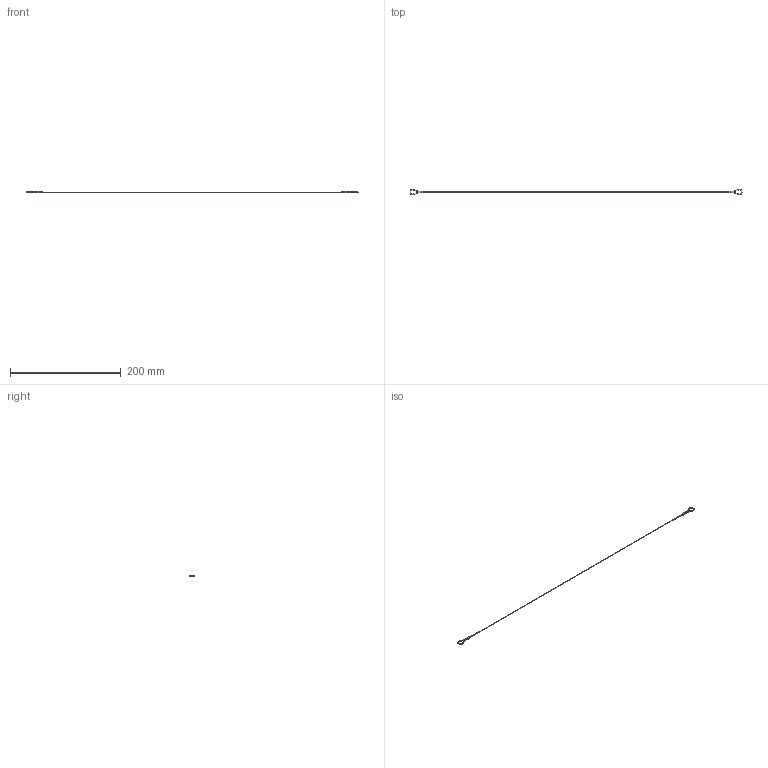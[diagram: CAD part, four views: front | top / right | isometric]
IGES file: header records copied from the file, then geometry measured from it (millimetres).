
Start section:  PTC IGES file: EB-935_12.igs
Global section: file name: EB-935_12.igs; native system: Creo Parametric by Parametric Technology Corporation; preprocessor: 2012360; author: xeon_1; organization: Unknown; date: 20130808.093905; units: millimetre
Bounding box: 600 x 10.12 x 2.5 mm (x, y, z)
Volume: 550.8 mm3; surface area: 2186.4 mm2
Topology: 1 solids, 1 shells, 26 faces, 64 edges, 37 vertices
Faces by surface type: revolution 14, bspline 12
